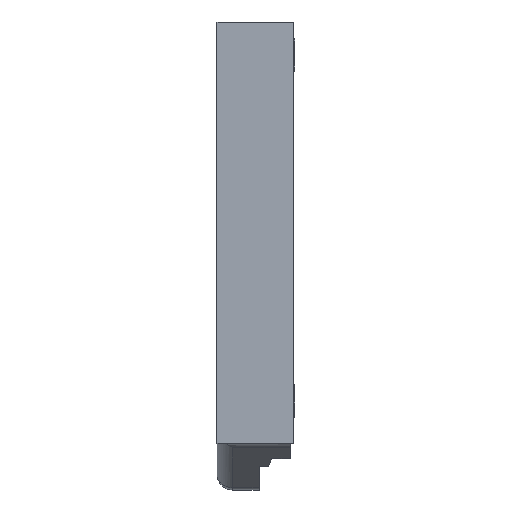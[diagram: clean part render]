
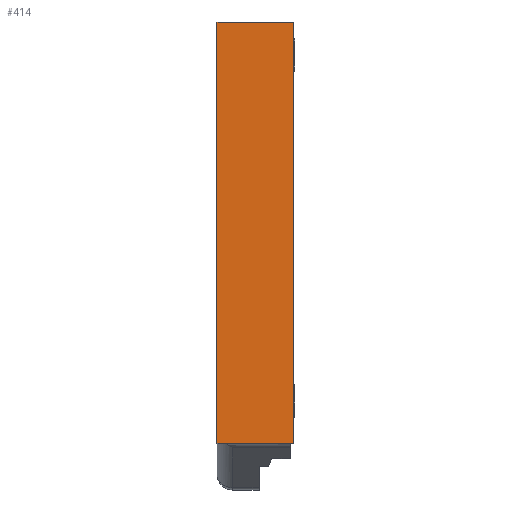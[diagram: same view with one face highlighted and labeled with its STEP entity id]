
A CAD part, left-side view. The second image highlights one B-rep face of the part: STEP entity #414.
In plain terms, the highlighted planar face has unit normal (-1, 0, 0).
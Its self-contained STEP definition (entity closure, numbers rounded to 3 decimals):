
#13 = VECTOR ( 'NONE', #3725, 1000. ) ;
#18 = VECTOR ( 'NONE', #3721, 1000. ) ;
#227 = EDGE_CURVE ( 'NONE', #1231, #1198, #3702, .T. ) ;
#228 = EDGE_CURVE ( 'NONE', #1230, #1199, #3722, .T. ) ;
#288 = EDGE_CURVE ( 'NONE', #1230, #1231, #2268, .T. ) ;
#316 = EDGE_CURVE ( 'NONE', #1198, #1199, #2352, .T. ) ;
#414 = ADVANCED_FACE ( 'NONE', ( #2718 ), #2719, .F. ) ;
#1082 = EDGE_LOOP ( 'NONE', ( #3926, #3933, #3934, #3937 ) ) ;
#1198 = VERTEX_POINT ( 'NONE', #1965 ) ;
#1199 = VERTEX_POINT ( 'NONE', #1966 ) ;
#1230 = VERTEX_POINT ( 'NONE', #1994 ) ;
#1231 = VERTEX_POINT ( 'NONE', #1995 ) ;
#1313 = VECTOR ( 'NONE', #2354, 1000. ) ;
#1422 = AXIS2_PLACEMENT_3D ( 'NONE', #2710, #2721, #2722 ) ;
#1965 = CARTESIAN_POINT ( 'NONE',  ( -1.75, 0.01, 2.6 ) ) ;
#1966 = CARTESIAN_POINT ( 'NONE',  ( -1.75, 0.01, -0.1 ) ) ;
#1994 = CARTESIAN_POINT ( 'NONE',  ( -1.75, 0.5, -0.1 ) ) ;
#1995 = CARTESIAN_POINT ( 'NONE',  ( -1.75, 0.5, 2.6 ) ) ;
#2268 = LINE ( 'NONE', #2269, #3765 ) ;
#2269 = CARTESIAN_POINT ( 'NONE',  ( -1.75, 0.5, 2.3 ) ) ;
#2270 = DIRECTION ( 'NONE',  ( 0., 0., 1. ) ) ;
#2352 = LINE ( 'NONE', #2353, #1313 ) ;
#2353 = CARTESIAN_POINT ( 'NONE',  ( -1.75, 0.01, 2.3 ) ) ;
#2354 = DIRECTION ( 'NONE',  ( 0., 0., -1. ) ) ;
#2710 = CARTESIAN_POINT ( 'NONE',  ( -1.75, 0.01, 2.3 ) ) ;
#2718 = FACE_OUTER_BOUND ( 'NONE', #1082, .T. ) ;
#2719 = PLANE ( 'NONE',  #1422 ) ;
#2721 = DIRECTION ( 'NONE',  ( 1., 0., 0. ) ) ;
#2722 = DIRECTION ( 'NONE',  ( 0., 0., -1. ) ) ;
#3702 = LINE ( 'NONE', #3720, #18 ) ;
#3720 = CARTESIAN_POINT ( 'NONE',  ( -1.75, 0.5, 2.6 ) ) ;
#3721 = DIRECTION ( 'NONE',  ( 0., -1., 0. ) ) ;
#3722 = LINE ( 'NONE', #3724, #13 ) ;
#3724 = CARTESIAN_POINT ( 'NONE',  ( -1.75, 0.5, -0.1 ) ) ;
#3725 = DIRECTION ( 'NONE',  ( 0., -1., 0. ) ) ;
#3765 = VECTOR ( 'NONE', #2270, 1000. ) ;
#3926 = ORIENTED_EDGE ( 'NONE', *, *, #228, .T. ) ;
#3933 = ORIENTED_EDGE ( 'NONE', *, *, #316, .F. ) ;
#3934 = ORIENTED_EDGE ( 'NONE', *, *, #227, .F. ) ;
#3937 = ORIENTED_EDGE ( 'NONE', *, *, #288, .F. ) ;
